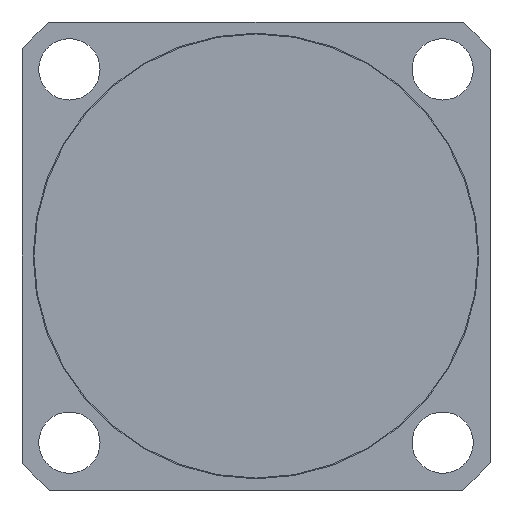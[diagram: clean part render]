
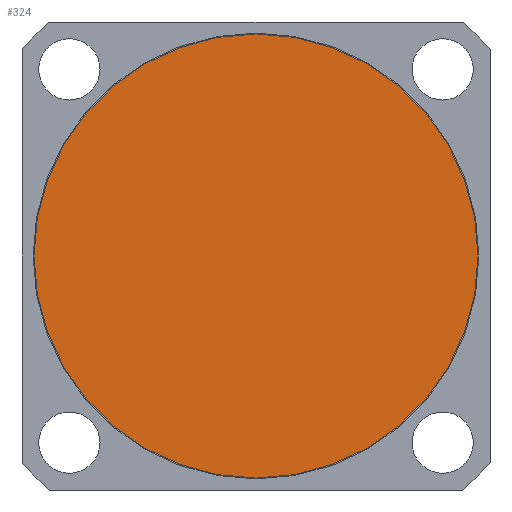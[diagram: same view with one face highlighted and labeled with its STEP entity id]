
A CAD part, front view. The second image highlights one B-rep face of the part: STEP entity #324.
In plain terms, the highlighted planar face has unit normal (0, -1, 0).
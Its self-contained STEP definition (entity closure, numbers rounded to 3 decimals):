
#324 = ADVANCED_FACE( '', ( #654 ), #655, .T. );
#654 = FACE_OUTER_BOUND( '', #1245, .T. );
#655 = PLANE( '', #1246 );
#1245 = EDGE_LOOP( '', ( #2032 ) );
#1246 = AXIS2_PLACEMENT_3D( '', #2033, #2034, #2035 );
#2032 = ORIENTED_EDGE( '', *, *, #3760, .T. );
#2033 = CARTESIAN_POINT( '', ( 0., -70.5, 0. ) );
#2034 = DIRECTION( '', ( 0., -1., 0. ) );
#2035 = DIRECTION( '', ( 1., 0., 0. ) );
#3760 = EDGE_CURVE( '', #4461, #4461, #4462, .T. );
#4461 = VERTEX_POINT( '', #5559 );
#4462 = CIRCLE( '', #5560, 39.85 );
#5559 = CARTESIAN_POINT( '', ( -39.85, -70.5, 0. ) );
#5560 = AXIS2_PLACEMENT_3D( '', #6915, #6916, #6917 );
#6915 = CARTESIAN_POINT( '', ( 0., -70.5, 0. ) );
#6916 = DIRECTION( '', ( 0., -1., 0. ) );
#6917 = DIRECTION( '', ( -1., 0., 0. ) );
